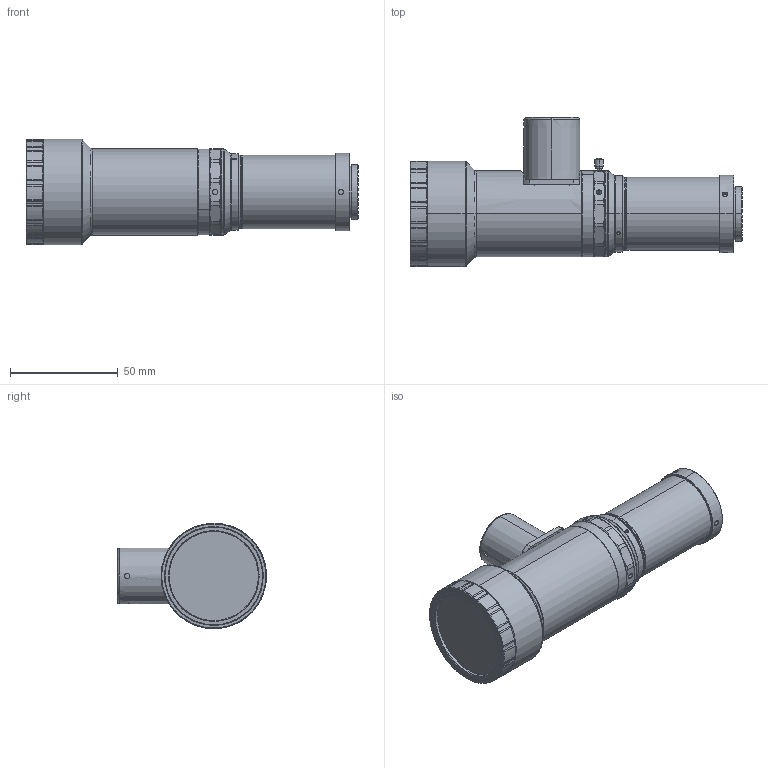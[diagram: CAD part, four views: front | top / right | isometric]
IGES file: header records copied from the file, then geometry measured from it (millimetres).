
Start section: SolidWorks IGES file using analytic representation for surfaces
Global section: file name: C:\Users\gc\Desktop\未完成工作堆放区\DTCA小倍率\DTCA121-13.3\发客户3D\DTCA121-13.3CL.IGS,15HSolidWorks; native system: 2017; preprocessor: SolidWorks 2017; author: gc; date: 231228.151019; units: millimetre
Bounding box: 154.4 x 69.3 x 49 mm (x, y, z)
Surface area: 32511.3 mm2 (no closed solid volume)
Topology: 0 solids, 0 shells, 500 faces, 7366 edges, 7356 vertices
Faces by surface type: revolution 377, bspline 123
